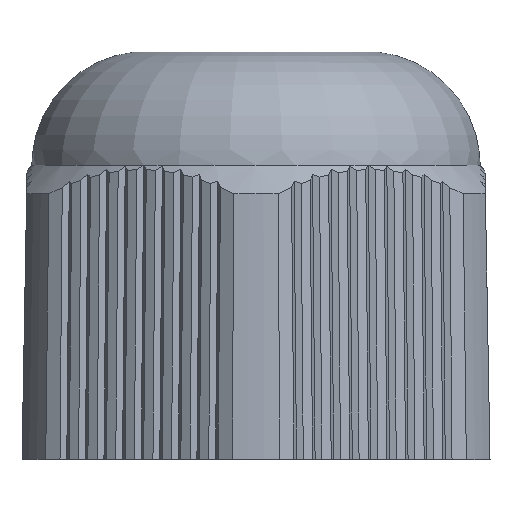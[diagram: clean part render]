
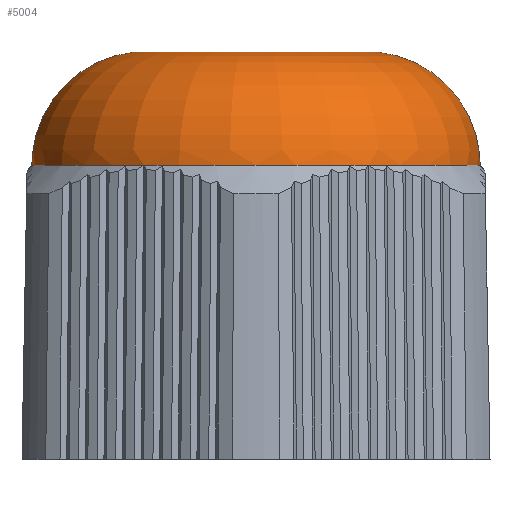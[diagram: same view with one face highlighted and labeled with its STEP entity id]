
A CAD part, top view. The second image highlights one B-rep face of the part: STEP entity #5004.
In plain terms, the highlighted toroidal (fillet/blend) face has major radius 5.15 mm and minor radius 5.3 mm.
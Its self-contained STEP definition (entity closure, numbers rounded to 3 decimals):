
#73 = ORIENTED_EDGE ( 'NONE', *, *, #5557, .T. ) ;
#733 = EDGE_LOOP ( 'NONE', ( #73 ) ) ;
#826 = EDGE_CURVE ( 'NONE', #878, #878, #6238, .T. ) ;
#878 = VERTEX_POINT ( 'NONE', #7337 ) ;
#953 = VERTEX_POINT ( 'NONE', #6809 ) ;
#1529 = AXIS2_PLACEMENT_3D ( 'NONE', #2995, #4163, #1717 ) ;
#1676 = CARTESIAN_POINT ( 'NONE',  ( 0., 18.971, 0. ) ) ;
#1717 = DIRECTION ( 'NONE',  ( 0., 0., -1. ) ) ;
#2409 = DIRECTION ( 'NONE',  ( 0., -1., 0. ) ) ;
#2995 = CARTESIAN_POINT ( 'NONE',  ( 0., 13.7, 0. ) ) ;
#4163 = DIRECTION ( 'NONE',  ( 0., -1., 0. ) ) ;
#4234 = DIRECTION ( 'NONE',  ( 0., 0., -1. ) ) ;
#4357 = DIRECTION ( 'NONE',  ( 0., 0., -1. ) ) ;
#4740 = EDGE_LOOP ( 'NONE', ( #4871 ) ) ;
#4871 = ORIENTED_EDGE ( 'NONE', *, *, #826, .F. ) ;
#5004 = ADVANCED_FACE ( 'NONE', ( #8135, #7581 ), #7655, .T. ) ;
#5216 = AXIS2_PLACEMENT_3D ( 'NONE', #1676, #6876, #4234 ) ;
#5557 = EDGE_CURVE ( 'NONE', #953, #953, #7261, .T. ) ;
#6238 = CIRCLE ( 'NONE', #8029, 10.45 ) ;
#6809 = CARTESIAN_POINT ( 'NONE',  ( 0., 18.971, -5.702 ) ) ;
#6876 = DIRECTION ( 'NONE',  ( 0., -1., 0. ) ) ;
#7261 = CIRCLE ( 'NONE', #5216, 5.702 ) ;
#7337 = CARTESIAN_POINT ( 'NONE',  ( 0., 13.7, -10.45 ) ) ;
#7581 = FACE_OUTER_BOUND ( 'NONE', #4740, .T. ) ;
#7655 = TOROIDAL_SURFACE ( 'NONE', #1529, 5.15, 5.3 ) ;
#8029 = AXIS2_PLACEMENT_3D ( 'NONE', #8252, #2409, #4357 ) ;
#8135 = FACE_OUTER_BOUND ( 'NONE', #733, .T. ) ;
#8252 = CARTESIAN_POINT ( 'NONE',  ( 0., 13.7, 0. ) ) ;
